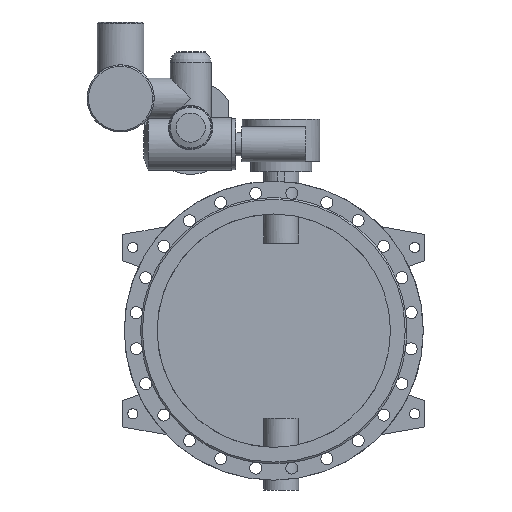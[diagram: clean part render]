
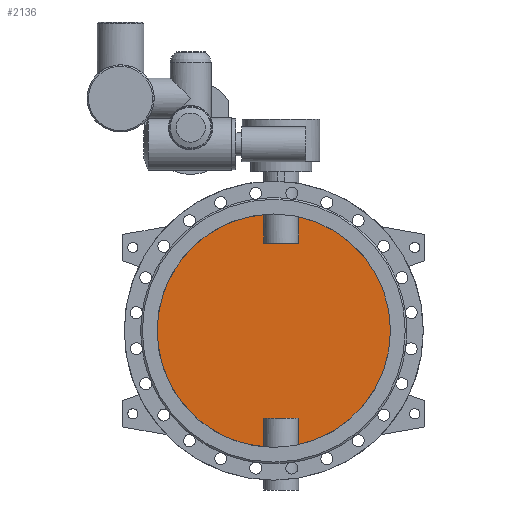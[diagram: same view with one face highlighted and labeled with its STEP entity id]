
A CAD part, front view. The second image highlights one B-rep face of the part: STEP entity #2136.
In plain terms, the highlighted planar face has unit normal (0, -1, 0).
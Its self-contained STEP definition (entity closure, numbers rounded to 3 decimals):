
#2136=ADVANCED_FACE('',(#4215),#4217,.F.);
#4215=FACE_BOUND('',#4216,.T.);
#4216=EDGE_LOOP('',(#5479,#5480,#5481,#5482,#5483,#5484,#5485,#5486));
#4217=PLANE('',#4218);
#4218=AXIS2_PLACEMENT_3D('',#4219,#4220,#4221);
#4219=CARTESIAN_POINT('',(0.,-5.,0.));
#4220=DIRECTION('',(0.,1.,0.));
#4221=DIRECTION('',(1.,0.,0.));
#5479=ORIENTED_EDGE('',*,*,#6112,.T.);
#5480=ORIENTED_EDGE('',*,*,#6117,.T.);
#5481=ORIENTED_EDGE('',*,*,#6118,.T.);
#5482=ORIENTED_EDGE('',*,*,#6119,.T.);
#5483=ORIENTED_EDGE('',*,*,#6114,.T.);
#5484=ORIENTED_EDGE('',*,*,#6120,.T.);
#5485=ORIENTED_EDGE('',*,*,#6121,.T.);
#5486=ORIENTED_EDGE('',*,*,#6122,.T.);
#6112=EDGE_CURVE('',#7211,#7212,#7213,.F.);
#6114=EDGE_CURVE('',#7216,#7214,#7217,.F.);
#6117=EDGE_CURVE('',#7212,#7221,#7222,.T.);
#6118=EDGE_CURVE('',#7221,#7223,#7224,.F.);
#6119=EDGE_CURVE('',#7223,#7216,#7225,.F.);
#6120=EDGE_CURVE('',#7214,#7226,#7227,.F.);
#6121=EDGE_CURVE('',#7226,#7228,#7229,.F.);
#6122=EDGE_CURVE('',#7228,#7211,#7230,.T.);
#7211=VERTEX_POINT('',#14125);
#7212=VERTEX_POINT('',#14126);
#7213=CIRCLE('',#14127,400.);
#7214=VERTEX_POINT('',#14131);
#7216=VERTEX_POINT('',#14238);
#7217=CIRCLE('',#14239,400.);
#7221=VERTEX_POINT('',#14355);
#7222=LINE('',#14356,#14357);
#7223=VERTEX_POINT('',#14359);
#7224=LINE('',#14360,#14361);
#7225=LINE('',#14363,#14364);
#7226=VERTEX_POINT('',#14366);
#7227=LINE('',#14367,#14368);
#7228=VERTEX_POINT('',#14370);
#7229=LINE('',#14371,#14372);
#7230=LINE('',#14374,#14375);
#14125=CARTESIAN_POINT('',(84.791,-5.,-390.91));
#14126=CARTESIAN_POINT('',(84.791,-5.,390.91));
#14127=AXIS2_PLACEMENT_3D('',#14128,#14129,#14130);
#14128=CARTESIAN_POINT('',(0.,-5.,0.));
#14129=DIRECTION('',(0.,1.,0.));
#14130=DIRECTION('',(0.212,0.,0.977));
#14131=CARTESIAN_POINT('',(-34.791,-5.,-398.484));
#14238=CARTESIAN_POINT('',(-34.791,-5.,398.484));
#14239=AXIS2_PLACEMENT_3D('',#14240,#14241,#14242);
#14240=CARTESIAN_POINT('',(0.,-5.,0.));
#14241=DIRECTION('',(0.,1.,0.));
#14242=DIRECTION('',(-0.087,0.,-0.996));
#14355=CARTESIAN_POINT('',(84.791,-5.,300.));
#14356=CARTESIAN_POINT('',(84.791,-5.,390.91));
#14357=VECTOR('',#14358,1.);
#14358=DIRECTION('',(0.,0.,-1.));
#14359=CARTESIAN_POINT('',(-34.791,-5.,300.));
#14360=CARTESIAN_POINT('',(-34.791,-5.,300.));
#14361=VECTOR('',#14362,1.);
#14362=DIRECTION('',(1.,0.,0.));
#14363=CARTESIAN_POINT('',(-34.791,-5.,398.484));
#14364=VECTOR('',#14365,1.);
#14365=DIRECTION('',(0.,0.,-1.));
#14366=CARTESIAN_POINT('',(-34.791,-5.,-300.));
#14367=CARTESIAN_POINT('',(-34.791,-5.,-300.));
#14368=VECTOR('',#14369,1.);
#14369=DIRECTION('',(0.,0.,-1.));
#14370=CARTESIAN_POINT('',(84.791,-5.,-300.));
#14371=CARTESIAN_POINT('',(84.791,-5.,-300.));
#14372=VECTOR('',#14373,1.);
#14373=DIRECTION('',(-1.,0.,0.));
#14374=CARTESIAN_POINT('',(84.791,-5.,-300.));
#14375=VECTOR('',#14376,1.);
#14376=DIRECTION('',(0.,0.,-1.));
